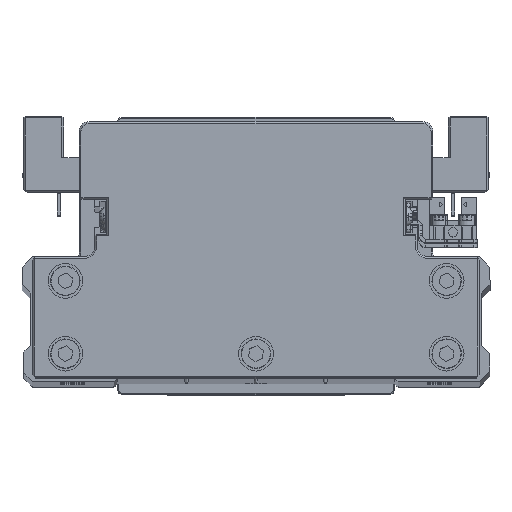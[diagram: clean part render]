
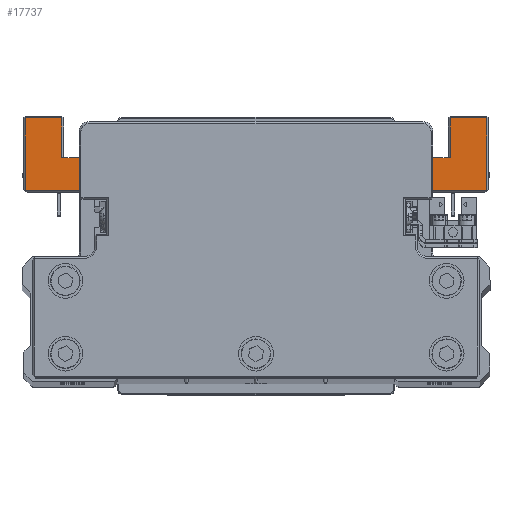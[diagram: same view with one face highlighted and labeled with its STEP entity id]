
A CAD part, top view. The second image highlights one B-rep face of the part: STEP entity #17737.
In plain terms, the highlighted planar face has unit normal (0, 0, 1) as drawn and (0, -1, 0) by its records, which use the part's own axes.
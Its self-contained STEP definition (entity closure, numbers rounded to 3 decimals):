
#426 = DIRECTION ( 'NONE',  ( 0., 0., 1. ) ) ;
#547 = DIRECTION ( 'NONE',  ( 0., 0., -1. ) ) ;
#2237 = CARTESIAN_POINT ( 'NONE',  ( -66.5, -45., -64.5 ) ) ;
#2367 = DIRECTION ( 'NONE',  ( -1., 0., 0. ) ) ;
#2512 = EDGE_CURVE ( 'NONE', #22109, #16659, #37650, .T. ) ;
#2596 = ORIENTED_EDGE ( 'NONE', *, *, #32978, .F. ) ;
#2735 = DIRECTION ( 'NONE',  ( 1., 0., 0. ) ) ;
#2855 = EDGE_CURVE ( 'NONE', #25002, #6698, #17947, .T. ) ;
#3033 = ORIENTED_EDGE ( 'NONE', *, *, #35112, .T. ) ;
#4170 = VECTOR ( 'NONE', #2735, 1000. ) ;
#4263 = DIRECTION ( 'NONE',  ( -1., 0., 0. ) ) ;
#4346 = DIRECTION ( 'NONE',  ( 0., 1., 0. ) ) ;
#4680 = VERTEX_POINT ( 'NONE', #21610 ) ;
#4716 = VERTEX_POINT ( 'NONE', #24881 ) ;
#4760 = CARTESIAN_POINT ( 'NONE',  ( -66.5, -45., -43. ) ) ;
#4978 = VERTEX_POINT ( 'NONE', #4760 ) ;
#5248 = EDGE_CURVE ( 'NONE', #34091, #15403, #16017, .T. ) ;
#5357 = CARTESIAN_POINT ( 'NONE',  ( 56., -45., -64.5 ) ) ;
#5440 = VERTEX_POINT ( 'NONE', #10868 ) ;
#5841 = ORIENTED_EDGE ( 'NONE', *, *, #22298, .T. ) ;
#6126 = CARTESIAN_POINT ( 'NONE',  ( -46., -45., -54. ) ) ;
#6447 = LINE ( 'NONE', #18947, #18294 ) ;
#6508 = LINE ( 'NONE', #19009, #38728 ) ;
#6698 = VERTEX_POINT ( 'NONE', #38737 ) ;
#6702 = VECTOR ( 'NONE', #37252, 1000. ) ;
#7512 = LINE ( 'NONE', #20025, #29367 ) ;
#7650 = VECTOR ( 'NONE', #2367, 1000. ) ;
#7884 = EDGE_CURVE ( 'NONE', #8517, #16422, #6447, .T. ) ;
#8080 = AXIS2_PLACEMENT_3D ( 'NONE', #27582, #40098, #12042 ) ;
#8171 = CARTESIAN_POINT ( 'NONE',  ( 66.5, -45., -43. ) ) ;
#8517 = VERTEX_POINT ( 'NONE', #8171 ) ;
#8583 = LINE ( 'NONE', #21099, #19914 ) ;
#9571 = CARTESIAN_POINT ( 'NONE',  ( 46., -45., -54. ) ) ;
#9934 = CARTESIAN_POINT ( 'NONE',  ( -55.5, -45., -52.5 ) ) ;
#10141 = EDGE_CURVE ( 'NONE', #25002, #30468, #33436, .T. ) ;
#10614 = AXIS2_PLACEMENT_3D ( 'NONE', #39726, #11658, #24158 ) ;
#10868 = CARTESIAN_POINT ( 'NONE',  ( -66.5, -45., -64. ) ) ;
#11263 = CARTESIAN_POINT ( 'NONE',  ( -56., -45., -64. ) ) ;
#11457 = DIRECTION ( 'NONE',  ( 0., 0., 1. ) ) ;
#11658 = DIRECTION ( 'NONE',  ( 0., -1., 0. ) ) ;
#11958 = CARTESIAN_POINT ( 'NONE',  ( 66.5, -45., -64. ) ) ;
#12042 = DIRECTION ( 'NONE',  ( 0., 0., -1. ) ) ;
#12261 = LINE ( 'NONE', #24749, #6702 ) ;
#12439 = ORIENTED_EDGE ( 'NONE', *, *, #10141, .T. ) ;
#12875 = ORIENTED_EDGE ( 'NONE', *, *, #7884, .T. ) ;
#13037 = VERTEX_POINT ( 'NONE', #33943 ) ;
#13245 = EDGE_CURVE ( 'NONE', #15580, #29855, #13420, .T. ) ;
#13298 = VECTOR ( 'NONE', #11457, 1000. ) ;
#13337 = ORIENTED_EDGE ( 'NONE', *, *, #5248, .T. ) ;
#13420 = LINE ( 'NONE', #25905, #24454 ) ;
#13781 = CARTESIAN_POINT ( 'NONE',  ( 56., -45., -64. ) ) ;
#14269 = AXIS2_PLACEMENT_3D ( 'NONE', #32431, #4346, #16842 ) ;
#14516 = CARTESIAN_POINT ( 'NONE',  ( 36.217, -45., -42.5 ) ) ;
#14538 = VECTOR ( 'NONE', #22443, 1000. ) ;
#14720 = FACE_OUTER_BOUND ( 'NONE', #33677, .T. ) ;
#14722 = DIRECTION ( 'NONE',  ( 0., 0., -1. ) ) ;
#14745 = ORIENTED_EDGE ( 'NONE', *, *, #2512, .T. ) ;
#15102 = ORIENTED_EDGE ( 'NONE', *, *, #33400, .F. ) ;
#15403 = VERTEX_POINT ( 'NONE', #34659 ) ;
#15580 = VERTEX_POINT ( 'NONE', #20303 ) ;
#16017 = LINE ( 'NONE', #28507, #26702 ) ;
#16131 = LINE ( 'NONE', #28620, #39386 ) ;
#16422 = VERTEX_POINT ( 'NONE', #35350 ) ;
#16453 = VECTOR ( 'NONE', #14722, 1000. ) ;
#16659 = VERTEX_POINT ( 'NONE', #27764 ) ;
#16776 = VECTOR ( 'NONE', #17872, 1000. ) ;
#16842 = DIRECTION ( 'NONE',  ( 0., 0., -1. ) ) ;
#17361 = VERTEX_POINT ( 'NONE', #11958 ) ;
#17737 = ADVANCED_FACE ( 'NONE', ( #14720 ), #27223, .T. ) ;
#17805 = EDGE_CURVE ( 'NONE', #22109, #4680, #12261, .T. ) ;
#17872 = DIRECTION ( 'NONE',  ( 0., 0., -1. ) ) ;
#17947 = LINE ( 'NONE', #30436, #7650 ) ;
#18294 = VECTOR ( 'NONE', #31449, 1000. ) ;
#18327 = LINE ( 'NONE', #30811, #4170 ) ;
#18947 = CARTESIAN_POINT ( 'NONE',  ( 40.066, -45., -43. ) ) ;
#19009 = CARTESIAN_POINT ( 'NONE',  ( -77.786, -45., -42.5 ) ) ;
#19049 = VECTOR ( 'NONE', #22073, 1000. ) ;
#19496 = VERTEX_POINT ( 'NONE', #14516 ) ;
#19854 = LINE ( 'NONE', #32349, #29651 ) ;
#19914 = VECTOR ( 'NONE', #33594, 1000. ) ;
#20025 = CARTESIAN_POINT ( 'NONE',  ( 25.802, -45., -41.111 ) ) ;
#20303 = CARTESIAN_POINT ( 'NONE',  ( -36.217, -45., -42.5 ) ) ;
#20859 = EDGE_CURVE ( 'NONE', #5440, #34091, #8583, .T. ) ;
#21099 = CARTESIAN_POINT ( 'NONE',  ( -55.5, -45., -64. ) ) ;
#21610 = CARTESIAN_POINT ( 'NONE',  ( -46., -45., -52.5 ) ) ;
#22073 = DIRECTION ( 'NONE',  ( 1., 0., 0. ) ) ;
#22109 = VERTEX_POINT ( 'NONE', #6126 ) ;
#22298 = EDGE_CURVE ( 'NONE', #13037, #19496, #7512, .T. ) ;
#22443 = DIRECTION ( 'NONE',  ( -1., 0., 0. ) ) ;
#24158 = DIRECTION ( 'NONE',  ( 0., 0., -1. ) ) ;
#24454 = VECTOR ( 'NONE', #38413, 1000. ) ;
#24749 = CARTESIAN_POINT ( 'NONE',  ( -46., -45., -52.5 ) ) ;
#24881 = CARTESIAN_POINT ( 'NONE',  ( -40.066, -45., -43. ) ) ;
#24999 = CARTESIAN_POINT ( 'NONE',  ( -39.868, -45., -42.987 ) ) ;
#25002 = VERTEX_POINT ( 'NONE', #38724 ) ;
#25259 = ORIENTED_EDGE ( 'NONE', *, *, #2855, .F. ) ;
#25735 = CIRCLE ( 'NONE', #8080, 1.5 ) ;
#25905 = CARTESIAN_POINT ( 'NONE',  ( -39.868, -45., -42.987 ) ) ;
#26702 = VECTOR ( 'NONE', #426, 1000. ) ;
#27007 = LINE ( 'NONE', #39528, #13298 ) ;
#27223 = PLANE ( 'NONE',  #10614 ) ;
#27565 = EDGE_CURVE ( 'NONE', #4716, #4978, #19854, .T. ) ;
#27582 = CARTESIAN_POINT ( 'NONE',  ( -40.066, -45., -41.5 ) ) ;
#27750 = EDGE_CURVE ( 'NONE', #17361, #8517, #27007, .T. ) ;
#27764 = CARTESIAN_POINT ( 'NONE',  ( 46., -45., -54. ) ) ;
#28507 = CARTESIAN_POINT ( 'NONE',  ( -56., -45., -52.5 ) ) ;
#28620 = CARTESIAN_POINT ( 'NONE',  ( 46., -45., -52.5 ) ) ;
#29367 = VECTOR ( 'NONE', #32509, 1000. ) ;
#29651 = VECTOR ( 'NONE', #4263, 1000. ) ;
#29855 = VERTEX_POINT ( 'NONE', #24999 ) ;
#30292 = LINE ( 'NONE', #2237, #16453 ) ;
#30436 = CARTESIAN_POINT ( 'NONE',  ( 55.5, -45., -52.5 ) ) ;
#30468 = VERTEX_POINT ( 'NONE', #13781 ) ;
#30747 = ORIENTED_EDGE ( 'NONE', *, *, #27565, .T. ) ;
#30811 = CARTESIAN_POINT ( 'NONE',  ( 67., -45., -64. ) ) ;
#30914 = ORIENTED_EDGE ( 'NONE', *, *, #34654, .T. ) ;
#31449 = DIRECTION ( 'NONE',  ( -1., 0., 0. ) ) ;
#31507 = DIRECTION ( 'NONE',  ( -1., 0., 0. ) ) ;
#31515 = EDGE_CURVE ( 'NONE', #4978, #5440, #30292, .T. ) ;
#31655 = EDGE_CURVE ( 'NONE', #19496, #15580, #6508, .T. ) ;
#31945 = CIRCLE ( 'NONE', #14269, 1.5 ) ;
#32243 = ORIENTED_EDGE ( 'NONE', *, *, #27750, .T. ) ;
#32349 = CARTESIAN_POINT ( 'NONE',  ( -66., -45., -43. ) ) ;
#32431 = CARTESIAN_POINT ( 'NONE',  ( 40.066, -45., -41.5 ) ) ;
#32509 = DIRECTION ( 'NONE',  ( -0.991, 0., 0.132 ) ) ;
#32978 = EDGE_CURVE ( 'NONE', #6698, #16659, #16131, .T. ) ;
#33118 = ORIENTED_EDGE ( 'NONE', *, *, #31515, .T. ) ;
#33400 = EDGE_CURVE ( 'NONE', #4680, #15403, #38006, .T. ) ;
#33436 = LINE ( 'NONE', #5357, #16776 ) ;
#33594 = DIRECTION ( 'NONE',  ( 1., 0., 0. ) ) ;
#33677 = EDGE_LOOP ( 'NONE', ( #39737, #37796, #30914, #30747, #33118, #34119, #13337, #15102, #37119, #14745, #2596, #25259, #12439, #3033, #32243, #12875, #37710, #5841 ) ) ;
#33943 = CARTESIAN_POINT ( 'NONE',  ( 39.868, -45., -42.987 ) ) ;
#34091 = VERTEX_POINT ( 'NONE', #11263 ) ;
#34119 = ORIENTED_EDGE ( 'NONE', *, *, #20859, .T. ) ;
#34654 = EDGE_CURVE ( 'NONE', #29855, #4716, #25735, .T. ) ;
#34659 = CARTESIAN_POINT ( 'NONE',  ( -56., -45., -52.5 ) ) ;
#35112 = EDGE_CURVE ( 'NONE', #30468, #17361, #18327, .T. ) ;
#35350 = CARTESIAN_POINT ( 'NONE',  ( 40.066, -45., -43. ) ) ;
#36642 = EDGE_CURVE ( 'NONE', #16422, #13037, #31945, .T. ) ;
#37119 = ORIENTED_EDGE ( 'NONE', *, *, #17805, .F. ) ;
#37252 = DIRECTION ( 'NONE',  ( 0., 0., 1. ) ) ;
#37650 = LINE ( 'NONE', #9571, #19049 ) ;
#37710 = ORIENTED_EDGE ( 'NONE', *, *, #36642, .T. ) ;
#37796 = ORIENTED_EDGE ( 'NONE', *, *, #13245, .T. ) ;
#38006 = LINE ( 'NONE', #9934, #14538 ) ;
#38413 = DIRECTION ( 'NONE',  ( -0.991, 0., -0.132 ) ) ;
#38724 = CARTESIAN_POINT ( 'NONE',  ( 56., -45., -52.5 ) ) ;
#38728 = VECTOR ( 'NONE', #31507, 1000. ) ;
#38737 = CARTESIAN_POINT ( 'NONE',  ( 46., -45., -52.5 ) ) ;
#39386 = VECTOR ( 'NONE', #547, 1000. ) ;
#39528 = CARTESIAN_POINT ( 'NONE',  ( 66.5, -45., -43.5 ) ) ;
#39726 = CARTESIAN_POINT ( 'NONE',  ( 0., -45., 0. ) ) ;
#39737 = ORIENTED_EDGE ( 'NONE', *, *, #31655, .T. ) ;
#40098 = DIRECTION ( 'NONE',  ( 0., 1., 0. ) ) ;
